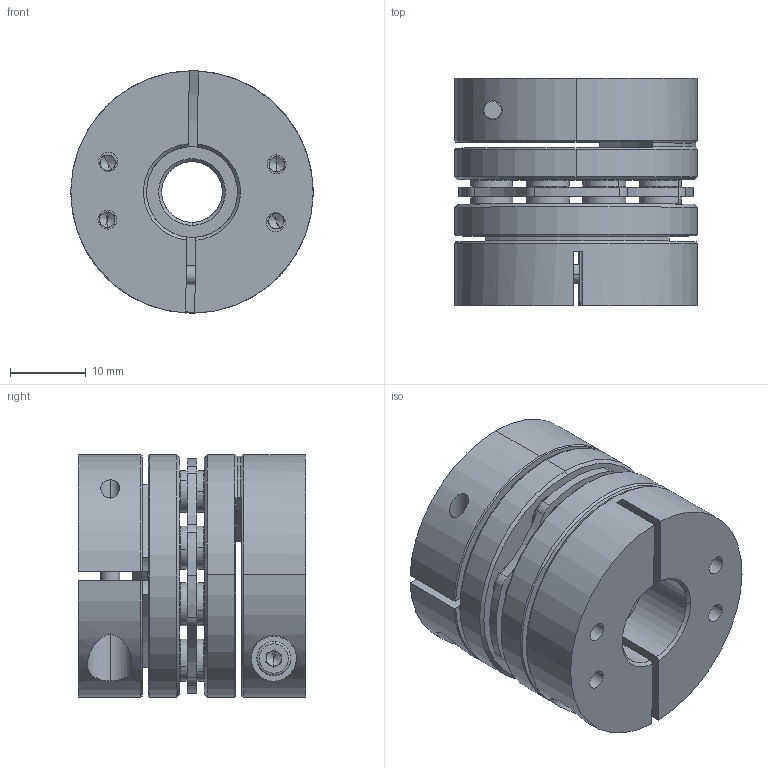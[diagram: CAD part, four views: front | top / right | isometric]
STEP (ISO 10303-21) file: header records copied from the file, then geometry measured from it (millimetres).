
FILE_DESCRIPTION (( 'STEP AP203' ), '1' );
FILE_NAME ('LDG-32-B1-8-12.STEP', '2021-10-28T05:12:40', ( '' ), ( '' ), 'SwSTEP 2.0', 'SolidWorks 2018', '' );
FILE_SCHEMA (( 'CONFIG_CONTROL_DESIGN' ));
Length unit declared in the file: millimetre
Products named in the file (2): LDG-32-B1-8-12; 錨璃5^LDG-32蚾饜芞1
Assembly tree (1 placements, depth 2):
  LDG-32-B1-8-12
    錨璃5^LDG-32蚾饜芞1
Bounding box: 32 x 30 x 32 mm (x, y, z)
Volume: 17747.8 mm3; surface area: 13187 mm2
Topology: 1 solids, 11 shells, 795 faces, 1967 edges, 1216 vertices
Faces by surface type: cylinder 301, plane 244, cone 230, torus 20
Entity records: 24191 total; most frequent: CARTESIAN_POINT 4472, DIRECTION 4465, ORIENTED_EDGE 3878, EDGE_CURVE 1939, AXIS2_PLACEMENT_3D 1819, VERTEX_POINT 1216, CIRCLE 1020, EDGE_LOOP 939
